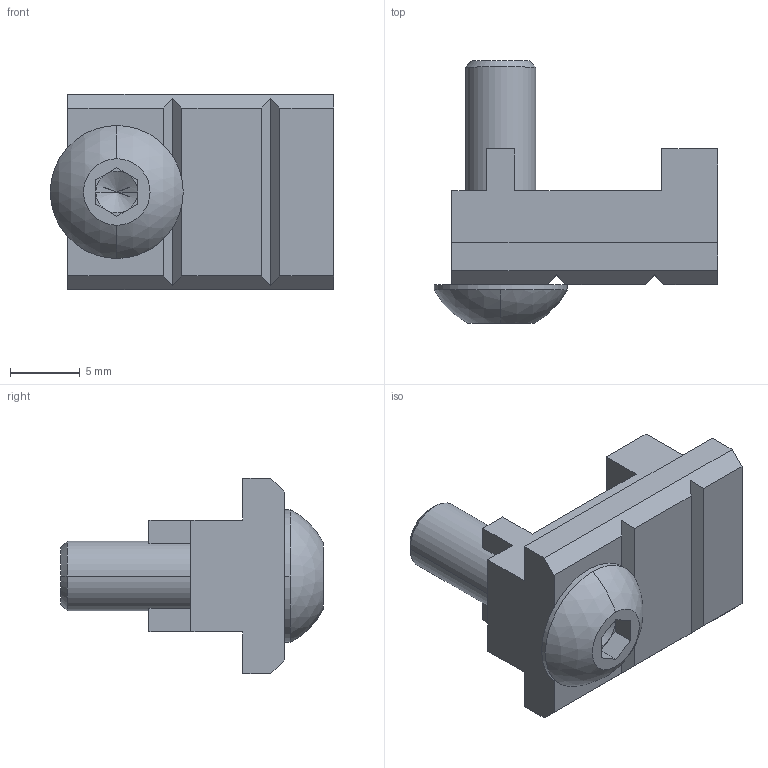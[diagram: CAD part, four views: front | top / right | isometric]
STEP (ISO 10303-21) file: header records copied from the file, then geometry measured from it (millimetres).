
FILE_DESCRIPTION (( 'STEP AP214' ), '1' );
FILE_NAME ('10595_VERSTZ3218.STEP', '2017-08-21T14:45:04', ( '' ), ( '' ), 'SwSTEP 2.0', 'SolidWorks 2017', '' );
FILE_SCHEMA (( 'AUTOMOTIVE_DESIGN' ));
Length unit declared in the file: millimetre
Products named in the file (1): 10595_VERSTZ3218
Bounding box: 20.25 x 18.75 x 14 mm (x, y, z)
Volume: 1750.3 mm3; surface area: 1542.9 mm2
Topology: 2 solids, 2 shells, 58 faces, 148 edges, 93 vertices
Faces by surface type: plane 42, cone 6, cylinder 6, torus 2, sphere 2
Entity records: 2407 total; most frequent: DIRECTION 300, CARTESIAN_POINT 298, ORIENTED_EDGE 292, EDGE_CURVE 146, VECTOR 110, LINE 110, AXIS2_PLACEMENT_3D 95, VERTEX_POINT 93
